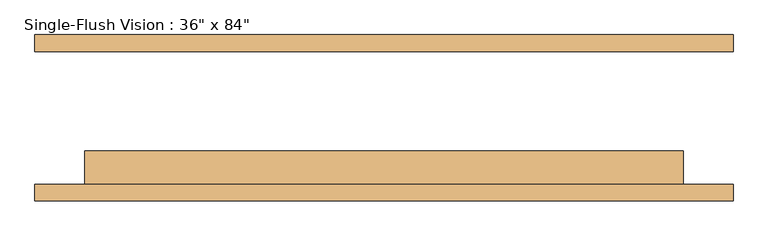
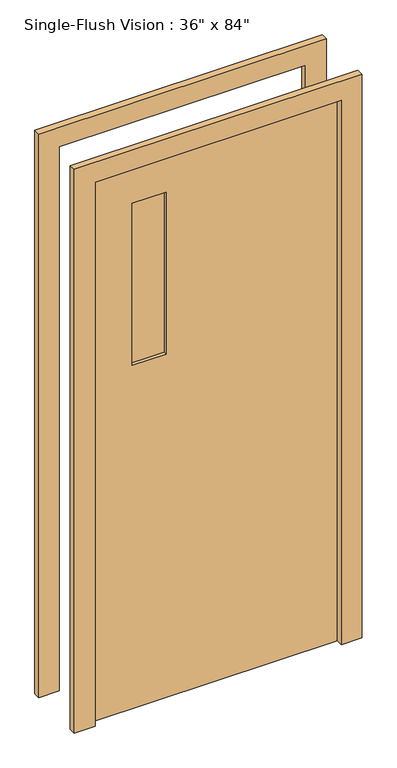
"""IFC4 building model written with IfcOpenShell, lengths in millimetres: door geometry."""

import ifcopenshell
import ifcopenshell.guid

model = None  # the IFC model being written
_history = None  # IfcOwnerHistory: only IFC2X3 demands one
_inside = {}  # id of a spatial element -> (the spatial element, [elements in it])
_under = {}  # id of a project, library or spatial element -> (it, [spatial elements below it])
_declared = {}  # id of a project -> (the project, [libraries it declares])
_typed = {}  # id of a type object -> (the type object, [elements of that type])
_made_of = {}  # id of a material, layer set ... -> (it, [elements and type objects made of it])


def new_model(schema):
    """Start an empty IFC model of exactly this schema.

    Asked for "IFC4X3", IfcOpenShell would pick the latest addendum, in which some entities
    have other attributes; the version numbers below select the first issue.
    IFC2X3 requires an IfcOwnerHistory on every rooted entity: one is made here for all.
    """
    global model, _history
    if schema == "IFC4X3":
        model = ifcopenshell.file(schema_version=(4, 3, 0, 0))
    else:
        model = ifcopenshell.file(schema=schema)
    _inside.clear()
    _under.clear()
    _declared.clear()
    _typed.clear()
    _made_of.clear()
    _history = None
    if model.schema == "IFC2X3":
        org = make("IfcOrganization", Name="unknown")
        user = make(
            "IfcPersonAndOrganization",
            ThePerson=make("IfcPerson", FamilyName="unknown"),
            TheOrganization=org,
        )
        app = make(
            "IfcApplication",
            ApplicationDeveloper=org,
            Version="unknown",
            ApplicationFullName="unknown",
            ApplicationIdentifier="unknown",
        )
        _history = make(
            "IfcOwnerHistory",
            OwningUser=user,
            OwningApplication=app,
            ChangeAction="ADDED",
            CreationDate=0,
        )
    return model


def make(cls, **values):
    """One entity of the class cls with the attributes given. An attribute that is None is left unset."""
    return model.create_entity(
        cls, **{name: value for name, value in values.items() if value is not None}
    )


def rooted(cls, **values):
    """An entity with a GlobalId (a new one), such as an element, a storey or a relation."""
    return make(cls, GlobalId=ifcopenshell.guid.new(), OwnerHistory=_history, **values)


def si_unit(unit_type, name, prefix=None):
    """IfcSIUnit, for example si_unit("LENGTHUNIT", "METRE", prefix="MILLI")."""
    return make("IfcSIUnit", UnitType=unit_type, Prefix=prefix, Name=name)


def assignment(units):
    """IfcUnitAssignment: the units of a project."""
    return None if units is None else make("IfcUnitAssignment", Units=units)


def point(xyz):
    """IfcCartesianPoint."""
    return None if xyz is None else make("IfcCartesianPoint", Coordinates=xyz)


def direction(xyz):
    """IfcDirection."""
    return None if xyz is None else make("IfcDirection", DirectionRatios=xyz)


def frame(location, z_axis=None, x_axis=None):
    """IfcAxis2Placement3D, a coordinate frame: its origin and axes. An axis left out is left unset."""
    return make(
        "IfcAxis2Placement3D",
        Location=point(location),
        Axis=direction(z_axis),
        RefDirection=direction(x_axis),
    )


def origin():
    """The frame at (0, 0, 0) with its axes left unset."""
    return frame((0.0, 0.0, 0.0))


def place(relative_to, where):
    """IfcLocalPlacement: puts the frame where relative to a parent placement (None: the world)."""
    return make(
        "IfcLocalPlacement", PlacementRelTo=relative_to, RelativePlacement=where
    )


def context(
    kind, dimensions, precision=None, world=None, true_north=None, identifier=None
):
    """IfcGeometricRepresentationContext, for example the 3D "Model" context."""
    return make(
        "IfcGeometricRepresentationContext",
        ContextIdentifier=identifier,
        ContextType=kind,
        CoordinateSpaceDimension=dimensions,
        Precision=precision,
        WorldCoordinateSystem=world,
        TrueNorth=true_north,
    )


def project(units=None, contexts=None):
    """IfcProject with its units and contexts."""
    return rooted(
        "IfcProject",
        Name="project",
        RepresentationContexts=contexts,
        UnitsInContext=assignment(units),
    )


def spatial(cls, under=None, at=None, **own):
    """A site, building, storey or space (cls), placed at a placement, below another one or the project."""
    s = rooted(cls, ObjectPlacement=at, **own)
    if under is not None:
        _under.setdefault(under.id(), (under, []))[1].append(s)
    return s


def polyline(points):
    """IfcPolyline through the points."""
    return make("IfcPolyline", Points=[point(p) for p in points])


def outline(outer, holes=None, kind="AREA"):
    """IfcArbitraryClosedProfileDef: a profile drawn as a closed curve; with holes, ...WithVoids."""
    if holes is None:
        return make("IfcArbitraryClosedProfileDef", ProfileType=kind, OuterCurve=outer)
    return make(
        "IfcArbitraryProfileDefWithVoids",
        ProfileType=kind,
        OuterCurve=outer,
        InnerCurves=holes,
    )


def extrude(swept, where, along, depth):
    """IfcExtrudedAreaSolid: the profile swept, set in the frame where, extruded along a direction by depth."""
    return make(
        "IfcExtrudedAreaSolid",
        SweptArea=swept,
        Position=where,
        ExtrudedDirection=direction(along),
        Depth=depth,
    )


def shape(context_of_items, identifier, shape_type, items):
    """IfcShapeRepresentation: the items that make up one representation, for example the "Body"."""
    return make(
        "IfcShapeRepresentation",
        ContextOfItems=context_of_items,
        RepresentationIdentifier=identifier,
        RepresentationType=shape_type,
        Items=items,
    )


def source(mapping_origin, context_of_items, identifier, shape_type, items):
    """IfcRepresentationMap: a shape defined once, which mapped items show again and again."""
    return make(
        "IfcRepresentationMap",
        MappingOrigin=mapping_origin,
        MappedRepresentation=shape(context_of_items, identifier, shape_type, items),
    )


def transform(
    local_origin,
    x_axis=None,
    y_axis=None,
    z_axis=None,
    scale=None,
    scale2=None,
    scale3=None,
    uniform=True,
):
    """IfcCartesianTransformationOperator3D, or its non-uniform kind. x_axis, y_axis, z_axis: its Axis1, 2, 3."""
    if uniform:
        return make(
            "IfcCartesianTransformationOperator3D",
            Axis1=direction(x_axis),
            Axis2=direction(y_axis),
            LocalOrigin=point(local_origin),
            Scale=scale,
            Axis3=direction(z_axis),
        )
    return make(
        "IfcCartesianTransformationOperator3DnonUniform",
        Axis1=direction(x_axis),
        Axis2=direction(y_axis),
        LocalOrigin=point(local_origin),
        Scale=scale,
        Axis3=direction(z_axis),
        Scale2=scale2,
        Scale3=scale3,
    )


def mapped(mapping_source, mapping_target):
    """IfcMappedItem: shows the shape of a source again, moved by a transform."""
    return make(
        "IfcMappedItem", MappingSource=mapping_source, MappingTarget=mapping_target
    )


def made_of(thing, what):
    """Note that an element or type object is made of a material, layer set ...; save() writes the relation."""
    if what is not None:
        _made_of.setdefault(what.id(), (what, []))[1].append(thing)
    return thing


def element(
    cls,
    number,
    at=None,
    inside=None,
    cuts=None,
    type_object=None,
    material=None,
    context=None,
    identifier="Body",
    shape_type=None,
    held_by="IfcProductDefinitionShape",
    body=None,
    shapes=None,
    **own,
):
    """One element of the class cls, such as IfcWall. Its Tag is "e" and its number.

    at: its placement. inside: the storey or other place that contains it. cuts: it is an
    opening in that element (IfcRelVoidsElement). A single representation is given by context,
    identifier, shape_type and body (its items); several are given by shapes. held_by: the class
    of the entity that holds the representations. save() writes the other relations.
    """
    e = rooted(cls, Tag="e%d" % number, ObjectPlacement=at, **own)
    if body is not None:
        shapes = [shape(context, identifier, shape_type, body)]
    if shapes is not None:
        e.Representation = make(held_by, Representations=shapes)
    if inside is not None:
        _inside.setdefault(inside.id(), (inside, []))[1].append(e)
    if cuts is not None:
        rooted(
            "IfcRelVoidsElement", RelatingBuildingElement=cuts, RelatedOpeningElement=e
        )
    if type_object is not None:
        _typed.setdefault(type_object.id(), (type_object, []))[1].append(e)
    return made_of(e, material)


def aggregate(whole, parts):
    """IfcRelAggregates: a whole, such as a stair, and the parts it consists of."""
    return rooted("IfcRelAggregates", RelatingObject=whole, RelatedObjects=parts)


def save(model, path):
    """Write the relations noted so far, then the file.

    IfcRelAggregates (storeys below a building ...), IfcRelContainedInSpatialStructure (elements
    in a storey), IfcRelDefinesByType, IfcRelAssociatesMaterial and IfcRelDeclares: one each for
    every whole, place, type object, material and project.
    """
    for whole, parts in _under.values():
        aggregate(whole, parts)
    for where, things in _inside.values():
        rooted(
            "IfcRelContainedInSpatialStructure",
            RelatedElements=things,
            RelatingStructure=where,
        )
    for kind, things in _typed.values():
        rooted("IfcRelDefinesByType", RelatedObjects=things, RelatingType=kind)
    for what, things in _made_of.values():
        rooted("IfcRelAssociatesMaterial", RelatedObjects=things, RelatingMaterial=what)
    for by, libraries in _declared.values():
        rooted("IfcRelDeclares", RelatingContext=by, RelatedDefinitions=libraries)
    model.write(path)


def door_2b60cb60(model_context):
    return source(origin(), model_context, "Body", "SweptSolid", [
        extrude(outline(polyline([(2209.8, -533.4), (0.0, -533.4), (0.0, -457.2), (2133.6, -457.2), (2133.6, 457.2), (0.0, 457.2), (0.0, 533.4), (2209.8, 533.4), (2209.8, -533.4)])), frame((0.0, -127.0, 0.0), z_axis=(0.0, 1.0, 0.0), x_axis=(0.0, 0.0, 1.0)), (0.0, 0.0, 1.0), 25.4),
        extrude(outline(polyline([(2133.6, 457.2), (0.0, 457.2), (0.0, 533.4), (2209.8, 533.4), (2209.8, -533.4), (0.0, -533.4), (0.0, -457.2), (2133.6, -457.2), (2133.6, 457.2)])), frame((0.0, 101.6, 0.0), z_axis=(0.0, 1.0, 0.0), x_axis=(0.0, 0.0, 1.0)), (0.0, 0.0, 1.0), 25.4),
        extrude(outline(polyline([(-177.8, -63.5), (-177.8, -69.85), (-304.8, -69.85), (-304.8, -63.5), (-177.8, -63.5)])), frame((0.0, 0.0, 1346.2), z_axis=(0.0, 0.0, 1.0), x_axis=(1.0, 0.0, 0.0)), (0.0, 0.0, 1.0), 635.0),
        extrude(outline(polyline([(-177.8, -82.55), (-177.8, -88.9), (-304.8, -88.9), (-304.8, -82.55), (-177.8, -82.55)])), frame((0.0, 0.0, 1346.2), z_axis=(0.0, 0.0, 1.0), x_axis=(1.0, 0.0, 0.0)), (0.0, 0.0, 1.0), 635.0),
        extrude(outline(polyline([(2133.6, -457.2), (0.0, -457.2), (0.0, 457.2), (2133.6, 457.2), (2133.6, -457.2)]), holes=[polyline([(1981.2, -304.8), (1981.2, -177.8), (1346.2, -177.8), (1346.2, -304.8), (1981.2, -304.8)])]), frame((0.0, -101.6, 0.0), z_axis=(0.0, 1.0, 0.0), x_axis=(0.0, 0.0, 1.0)), (0.0, 0.0, 1.0), 50.8),
    ])


if __name__ == "__main__":
    model = new_model("IFC4")
    model_context = context("Model", 3, world=origin())
    ifc_project = project(units=[si_unit("LENGTHUNIT", "METRE", prefix="MILLI")], contexts=[model_context])
    site = spatial("IfcSite", under=ifc_project)
    building = spatial("IfcBuilding", under=site)
    placement = place(None, origin())
    door_shape = door_2b60cb60(model_context)
    element("IfcDoor", 1, ObjectType="Single-Flush Vision : 36\" x 84\"", at=placement, inside=building, context=model_context, shape_type="MappedRepresentation", body=[
        mapped(door_shape, transform((0.0, 0.0, 0.0), x_axis=(1.0, 0.0, 0.0), y_axis=(0.0, 1.0, 0.0), z_axis=(0.0, 0.0, 1.0))),
    ])
    save(model, "model.ifc")
